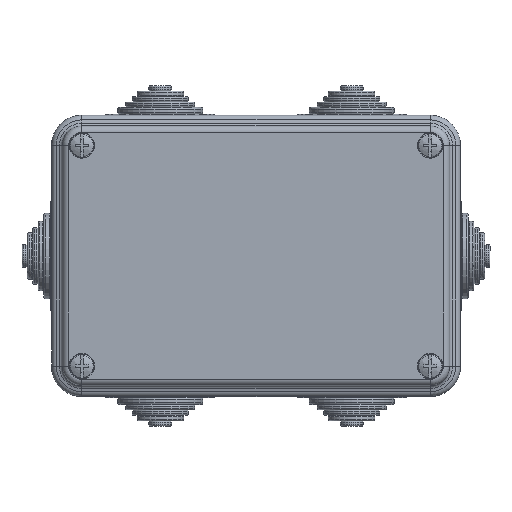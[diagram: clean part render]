
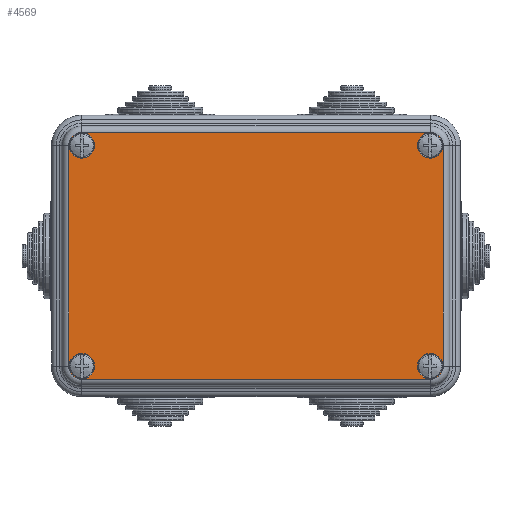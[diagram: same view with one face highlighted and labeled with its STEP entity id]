
A CAD part, top view. The second image highlights one B-rep face of the part: STEP entity #4569.
In plain terms, the highlighted planar face has unit normal (0, 0, 1).
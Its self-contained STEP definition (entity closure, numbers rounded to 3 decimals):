
#122=LINE('',#21308,#880);
#123=LINE('',#21313,#881);
#124=LINE('',#21317,#882);
#125=LINE('',#21321,#883);
#880=VECTOR('',#16723,1.);
#881=VECTOR('',#16726,1.);
#882=VECTOR('',#16729,1.);
#883=VECTOR('',#16732,1.);
#2295=PLANE('',#14564);
#2725=CIRCLE('',#14556,3.973);
#2726=CIRCLE('',#14557,3.973);
#2727=CIRCLE('',#14558,3.973);
#2728=CIRCLE('',#14559,3.973);
#2729=CIRCLE('',#14560,4.1);
#2730=CIRCLE('',#14561,4.1);
#2731=CIRCLE('',#14562,4.1);
#2732=CIRCLE('',#14563,4.1);
#3685=FACE_BOUND('',#6193,.T.);
#3686=FACE_BOUND('',#6194,.T.);
#3687=FACE_BOUND('',#6195,.T.);
#3688=FACE_BOUND('',#6196,.T.);
#3689=FACE_BOUND('',#6197,.T.);
#4569=ADVANCED_FACE('',(#3685,#3686,#3687,#3688,#3689),#2295,.T.);
#6193=EDGE_LOOP('',(#7752));
#6194=EDGE_LOOP('',(#7753));
#6195=EDGE_LOOP('',(#7754));
#6196=EDGE_LOOP('',(#7755));
#6197=EDGE_LOOP('',(#7756,#7757,#7758,#7759,#7760,#7761,#7762,#7763));
#7752=ORIENTED_EDGE('',*,*,#12604,.F.);
#7753=ORIENTED_EDGE('',*,*,#12605,.T.);
#7754=ORIENTED_EDGE('',*,*,#12606,.T.);
#7755=ORIENTED_EDGE('',*,*,#12607,.F.);
#7756=ORIENTED_EDGE('',*,*,#12608,.T.);
#7757=ORIENTED_EDGE('',*,*,#12609,.T.);
#7758=ORIENTED_EDGE('',*,*,#12610,.T.);
#7759=ORIENTED_EDGE('',*,*,#12611,.T.);
#7760=ORIENTED_EDGE('',*,*,#12612,.T.);
#7761=ORIENTED_EDGE('',*,*,#12613,.T.);
#7762=ORIENTED_EDGE('',*,*,#12614,.T.);
#7763=ORIENTED_EDGE('',*,*,#12615,.T.);
#11289=VERTEX_POINT('',#21301);
#11290=VERTEX_POINT('',#21303);
#11291=VERTEX_POINT('',#21305);
#11292=VERTEX_POINT('',#21307);
#11293=VERTEX_POINT('',#21309);
#11294=VERTEX_POINT('',#21310);
#11295=VERTEX_POINT('',#21312);
#11296=VERTEX_POINT('',#21314);
#11297=VERTEX_POINT('',#21316);
#11298=VERTEX_POINT('',#21318);
#11299=VERTEX_POINT('',#21320);
#11300=VERTEX_POINT('',#21322);
#12604=EDGE_CURVE('',#11289,#11289,#2725,.T.);
#12605=EDGE_CURVE('',#11290,#11290,#2726,.T.);
#12606=EDGE_CURVE('',#11291,#11291,#2727,.T.);
#12607=EDGE_CURVE('',#11292,#11292,#2728,.T.);
#12608=EDGE_CURVE('',#11293,#11294,#122,.T.);
#12609=EDGE_CURVE('',#11294,#11295,#2729,.T.);
#12610=EDGE_CURVE('',#11295,#11296,#123,.T.);
#12611=EDGE_CURVE('',#11296,#11297,#2730,.T.);
#12612=EDGE_CURVE('',#11297,#11298,#124,.T.);
#12613=EDGE_CURVE('',#11298,#11299,#2731,.T.);
#12614=EDGE_CURVE('',#11299,#11300,#125,.T.);
#12615=EDGE_CURVE('',#11300,#11293,#2732,.T.);
#14556=AXIS2_PLACEMENT_3D('',#21300,#16715,#16716);
#14557=AXIS2_PLACEMENT_3D('',#21302,#16717,#16718);
#14558=AXIS2_PLACEMENT_3D('',#21304,#16719,#16720);
#14559=AXIS2_PLACEMENT_3D('',#21306,#16721,#16722);
#14560=AXIS2_PLACEMENT_3D('',#21311,#16724,#16725);
#14561=AXIS2_PLACEMENT_3D('',#21315,#16727,#16728);
#14562=AXIS2_PLACEMENT_3D('',#21319,#16730,#16731);
#14563=AXIS2_PLACEMENT_3D('',#21323,#16733,#16734);
#14564=AXIS2_PLACEMENT_3D('',#21324,#16735,#16736);
#16715=DIRECTION('',(0.,0.,1.));
#16716=DIRECTION('',(1.,0.,0.));
#16717=DIRECTION('',(0.,0.,-1.));
#16718=DIRECTION('',(1.,0.,0.));
#16719=DIRECTION('',(0.,0.,-1.));
#16720=DIRECTION('',(1.,0.,0.));
#16721=DIRECTION('',(0.,0.,1.));
#16722=DIRECTION('',(1.,0.,0.));
#16723=DIRECTION('',(-1.,0.,0.));
#16724=DIRECTION('',(0.,0.,1.));
#16725=DIRECTION('',(1.,0.,0.));
#16726=DIRECTION('',(0.,-1.,0.));
#16727=DIRECTION('',(0.,0.,1.));
#16728=DIRECTION('',(1.,0.,0.));
#16729=DIRECTION('',(1.,0.,0.));
#16730=DIRECTION('',(0.,0.,1.));
#16731=DIRECTION('',(1.,0.,0.));
#16732=DIRECTION('',(0.,1.,0.));
#16733=DIRECTION('',(0.,0.,1.));
#16734=DIRECTION('',(1.,0.,0.));
#16735=DIRECTION('',(0.,0.,1.));
#16736=DIRECTION('',(1.,0.,0.));
#21300=CARTESIAN_POINT('',(54.6,34.6,56.3));
#21301=CARTESIAN_POINT('',(58.573,34.6,56.3));
#21302=CARTESIAN_POINT('',(-54.6,34.6,56.3));
#21303=CARTESIAN_POINT('',(-50.627,34.6,56.3));
#21304=CARTESIAN_POINT('',(54.6,-34.6,56.3));
#21305=CARTESIAN_POINT('',(58.573,-34.6,56.3));
#21306=CARTESIAN_POINT('',(-54.6,-34.6,56.3));
#21307=CARTESIAN_POINT('',(-50.627,-34.6,56.3));
#21308=CARTESIAN_POINT('',(-54.6,38.7,56.3));
#21309=CARTESIAN_POINT('',(54.6,38.7,56.3));
#21310=CARTESIAN_POINT('',(-54.6,38.7,56.3));
#21311=CARTESIAN_POINT('',(-54.6,34.6,56.3));
#21312=CARTESIAN_POINT('',(-58.7,34.6,56.3));
#21313=CARTESIAN_POINT('',(-58.7,-34.6,56.3));
#21314=CARTESIAN_POINT('',(-58.7,-34.6,56.3));
#21315=CARTESIAN_POINT('',(-54.6,-34.6,56.3));
#21316=CARTESIAN_POINT('',(-54.6,-38.7,56.3));
#21317=CARTESIAN_POINT('',(54.6,-38.7,56.3));
#21318=CARTESIAN_POINT('',(54.6,-38.7,56.3));
#21319=CARTESIAN_POINT('',(54.6,-34.6,56.3));
#21320=CARTESIAN_POINT('',(58.7,-34.6,56.3));
#21321=CARTESIAN_POINT('',(58.7,34.6,56.3));
#21322=CARTESIAN_POINT('',(58.7,34.6,56.3));
#21323=CARTESIAN_POINT('',(54.6,34.6,56.3));
#21324=CARTESIAN_POINT('',(-54.6,-34.6,56.3));
